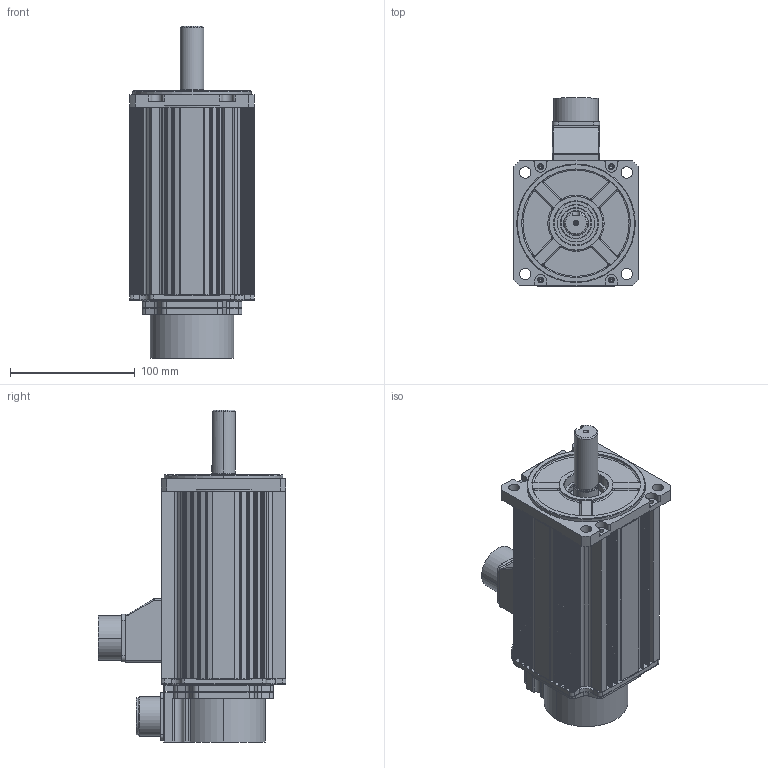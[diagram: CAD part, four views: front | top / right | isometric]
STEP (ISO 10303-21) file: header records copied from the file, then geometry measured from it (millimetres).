
FILE_DESCRIPTION (( 'STEP AP214' ), '1' );
FILE_NAME ('KANS-20B¡à1N2.STEP', '2026-09-12T00:46:04', ( '' ), ( '' ), 'SwSTEP 2.0', 'SolidWorks 2023', '' );
FILE_SCHEMA (( 'AUTOMOTIVE_DESIGN' ));
Length unit declared in the file: millimetre
Products named in the file (10): MS3102A 20-29P; 10060024(ENCODER COVER ADAPTOR,□100,□120); KANS-20B□1N2; 1006002202 ENCODER COVER; Ø19-KEY6X42; 10050579 CONNECTOR BOX_MS20; MS3102A 20_표준; □100-150mm; □100 BRACKET_BR; □100 FLANGE
Assembly tree (9 placements, depth 2):
  KANS-20B□1N2
    □100-150mm
    □100 FLANGE
    □100 BRACKET_BR
    10060024(ENCODER COVER ADAPTOR,□100,□120)
    1006002202 ENCODER COVER
    MS3102A 20-29P
    10050579 CONNECTOR BOX_MS20
    MS3102A 20_표준
    Ø19-KEY6X42
Bounding box: 100 x 150.55 x 266 mm (x, y, z)
Volume: 480780.5 mm3; surface area: 274521.8 mm2
Topology: 9 solids, 9 shells, 1787 faces, 4924 edges, 3182 vertices
Faces by surface type: plane 794, cylinder 788, torus 74, cone 64, bspline 35, sphere 32
Entity records: 58629 total; most frequent: CARTESIAN_POINT 11693, DIRECTION 10107, ORIENTED_EDGE 9728, EDGE_CURVE 4864, AXIS2_PLACEMENT_3D 3614, VERTEX_POINT 3174, VECTOR 2879, LINE 2879
